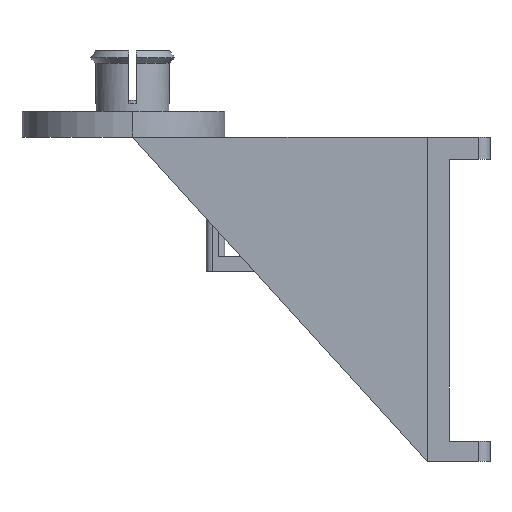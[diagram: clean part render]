
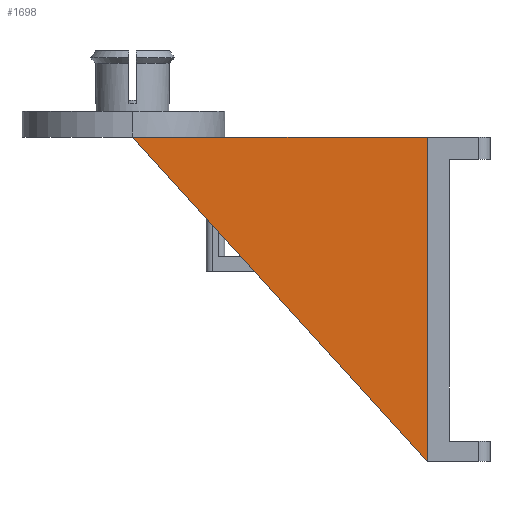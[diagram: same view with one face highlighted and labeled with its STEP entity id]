
A CAD part, left-side view. The second image highlights one B-rep face of the part: STEP entity #1698.
In plain terms, the highlighted planar face has unit normal (-1, 0, 0).
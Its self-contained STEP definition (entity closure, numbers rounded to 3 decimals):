
#212 = PLANE('',#213);
#213 = AXIS2_PLACEMENT_3D('',#214,#215,#216);
#214 = CARTESIAN_POINT('',(36.,35.6,35.4));
#215 = DIRECTION('',(0.,0.,1.));
#216 = DIRECTION('',(1.,0.,-0.));
#238 = PLANE('',#239);
#239 = AXIS2_PLACEMENT_3D('',#240,#241,#242);
#240 = CARTESIAN_POINT('',(37.2,38.,0.2));
#241 = DIRECTION('',(0.,1.,0.));
#242 = DIRECTION('',(1.,0.,0.));
#399 = VERTEX_POINT('',#400);
#400 = CARTESIAN_POINT('',(42.,38.,0.2));
#414 = PLANE('',#415);
#415 = AXIS2_PLACEMENT_3D('',#416,#417,#418);
#416 = CARTESIAN_POINT('',(42.,38.,0.2));
#417 = DIRECTION('',(0.,-0.74,0.673)
  );
#418 = DIRECTION('',(0.,0.673,0.74)
  );
#952 = VERTEX_POINT('',#953);
#953 = CARTESIAN_POINT('',(42.,65.641,35.4));
#980 = EDGE_CURVE('',#952,#981,#983,.T.);
#981 = VERTEX_POINT('',#982);
#982 = CARTESIAN_POINT('',(42.,38.,35.4));
#983 = SURFACE_CURVE('',#984,(#988,#995),.PCURVE_S1.);
#984 = LINE('',#985,#986);
#985 = CARTESIAN_POINT('',(42.,65.641,35.4));
#986 = VECTOR('',#987,1.);
#987 = DIRECTION('',(0.,-1.,0.));
#988 = PCURVE('',#212,#989);
#989 = DEFINITIONAL_REPRESENTATION('',(#990),#994);
#990 = LINE('',#991,#992);
#991 = CARTESIAN_POINT('',(6.,30.041));
#992 = VECTOR('',#993,1.);
#993 = DIRECTION('',(0.,-1.));
#994 = ( GEOMETRIC_REPRESENTATION_CONTEXT(2) 
PARAMETRIC_REPRESENTATION_CONTEXT() REPRESENTATION_CONTEXT('2D SPACE',''
  ) );
#995 = PCURVE('',#996,#1001);
#996 = PLANE('',#997);
#997 = AXIS2_PLACEMENT_3D('',#998,#999,#1000);
#998 = CARTESIAN_POINT('',(42.,49.093,22.707));
#999 = DIRECTION('',(1.,0.,0.));
#1000 = DIRECTION('',(0.,1.,0.));
#1001 = DEFINITIONAL_REPRESENTATION('',(#1002),#1006);
#1002 = LINE('',#1003,#1004);
#1003 = CARTESIAN_POINT('',(16.548,12.693));
#1004 = VECTOR('',#1005,1.);
#1005 = DIRECTION('',(-1.,0.));
#1006 = ( GEOMETRIC_REPRESENTATION_CONTEXT(2) 
PARAMETRIC_REPRESENTATION_CONTEXT() REPRESENTATION_CONTEXT('2D SPACE',''
  ) );
#1035 = EDGE_CURVE('',#981,#399,#1036,.T.);
#1036 = SURFACE_CURVE('',#1037,(#1041,#1048),.PCURVE_S1.);
#1037 = LINE('',#1038,#1039);
#1038 = CARTESIAN_POINT('',(42.,38.,35.4));
#1039 = VECTOR('',#1040,1.);
#1040 = DIRECTION('',(0.,0.,-1.));
#1041 = PCURVE('',#238,#1042);
#1042 = DEFINITIONAL_REPRESENTATION('',(#1043),#1047);
#1043 = LINE('',#1044,#1045);
#1044 = CARTESIAN_POINT('',(4.8,-35.2));
#1045 = VECTOR('',#1046,1.);
#1046 = DIRECTION('',(0.,1.));
#1047 = ( GEOMETRIC_REPRESENTATION_CONTEXT(2) 
PARAMETRIC_REPRESENTATION_CONTEXT() REPRESENTATION_CONTEXT('2D SPACE',''
  ) );
#1048 = PCURVE('',#996,#1049);
#1049 = DEFINITIONAL_REPRESENTATION('',(#1050),#1054);
#1050 = LINE('',#1051,#1052);
#1051 = CARTESIAN_POINT('',(-11.093,12.693));
#1052 = VECTOR('',#1053,1.);
#1053 = DIRECTION('',(0.,-1.));
#1054 = ( GEOMETRIC_REPRESENTATION_CONTEXT(2) 
PARAMETRIC_REPRESENTATION_CONTEXT() REPRESENTATION_CONTEXT('2D SPACE',''
  ) );
#1292 = VERTEX_POINT('',#1293);
#1293 = CARTESIAN_POINT('',(42.,70.,35.4));
#1307 = PLANE('',#1308);
#1308 = AXIS2_PLACEMENT_3D('',#1309,#1310,#1311);
#1309 = CARTESIAN_POINT('',(51.,70.,35.4));
#1310 = DIRECTION('',(0.,0.,1.));
#1311 = DIRECTION('',(1.,0.,-0.));
#1319 = EDGE_CURVE('',#399,#1292,#1320,.T.);
#1320 = SURFACE_CURVE('',#1321,(#1325,#1332),.PCURVE_S1.);
#1321 = LINE('',#1322,#1323);
#1322 = CARTESIAN_POINT('',(42.,38.,0.2));
#1323 = VECTOR('',#1324,1.);
#1324 = DIRECTION('',(0.,0.673,0.74)
  );
#1325 = PCURVE('',#414,#1326);
#1326 = DEFINITIONAL_REPRESENTATION('',(#1327),#1331);
#1327 = LINE('',#1328,#1329);
#1328 = CARTESIAN_POINT('',(0.,0.));
#1329 = VECTOR('',#1330,1.);
#1330 = DIRECTION('',(1.,0.));
#1331 = ( GEOMETRIC_REPRESENTATION_CONTEXT(2) 
PARAMETRIC_REPRESENTATION_CONTEXT() REPRESENTATION_CONTEXT('2D SPACE',''
  ) );
#1332 = PCURVE('',#996,#1333);
#1333 = DEFINITIONAL_REPRESENTATION('',(#1334),#1338);
#1334 = LINE('',#1335,#1336);
#1335 = CARTESIAN_POINT('',(-11.093,-22.507));
#1336 = VECTOR('',#1337,1.);
#1337 = DIRECTION('',(0.673,0.74));
#1338 = ( GEOMETRIC_REPRESENTATION_CONTEXT(2) 
PARAMETRIC_REPRESENTATION_CONTEXT() REPRESENTATION_CONTEXT('2D SPACE',''
  ) );
#1698 = ADVANCED_FACE('',(#1699),#996,.F.);
#1699 = FACE_BOUND('',#1700,.F.);
#1700 = EDGE_LOOP('',(#1701,#1702,#1723,#1724));
#1701 = ORIENTED_EDGE('',*,*,#1319,.T.);
#1702 = ORIENTED_EDGE('',*,*,#1703,.T.);
#1703 = EDGE_CURVE('',#1292,#952,#1704,.T.);
#1704 = SURFACE_CURVE('',#1705,(#1709,#1716),.PCURVE_S1.);
#1705 = LINE('',#1706,#1707);
#1706 = CARTESIAN_POINT('',(42.,70.,35.4));
#1707 = VECTOR('',#1708,1.);
#1708 = DIRECTION('',(0.,-1.,0.));
#1709 = PCURVE('',#996,#1710);
#1710 = DEFINITIONAL_REPRESENTATION('',(#1711),#1715);
#1711 = LINE('',#1712,#1713);
#1712 = CARTESIAN_POINT('',(20.907,12.693));
#1713 = VECTOR('',#1714,1.);
#1714 = DIRECTION('',(-1.,0.));
#1715 = ( GEOMETRIC_REPRESENTATION_CONTEXT(2) 
PARAMETRIC_REPRESENTATION_CONTEXT() REPRESENTATION_CONTEXT('2D SPACE',''
  ) );
#1716 = PCURVE('',#1307,#1717);
#1717 = DEFINITIONAL_REPRESENTATION('',(#1718),#1722);
#1718 = LINE('',#1719,#1720);
#1719 = CARTESIAN_POINT('',(-9.,0.));
#1720 = VECTOR('',#1721,1.);
#1721 = DIRECTION('',(0.,-1.));
#1722 = ( GEOMETRIC_REPRESENTATION_CONTEXT(2) 
PARAMETRIC_REPRESENTATION_CONTEXT() REPRESENTATION_CONTEXT('2D SPACE',''
  ) );
#1723 = ORIENTED_EDGE('',*,*,#980,.T.);
#1724 = ORIENTED_EDGE('',*,*,#1035,.T.);
